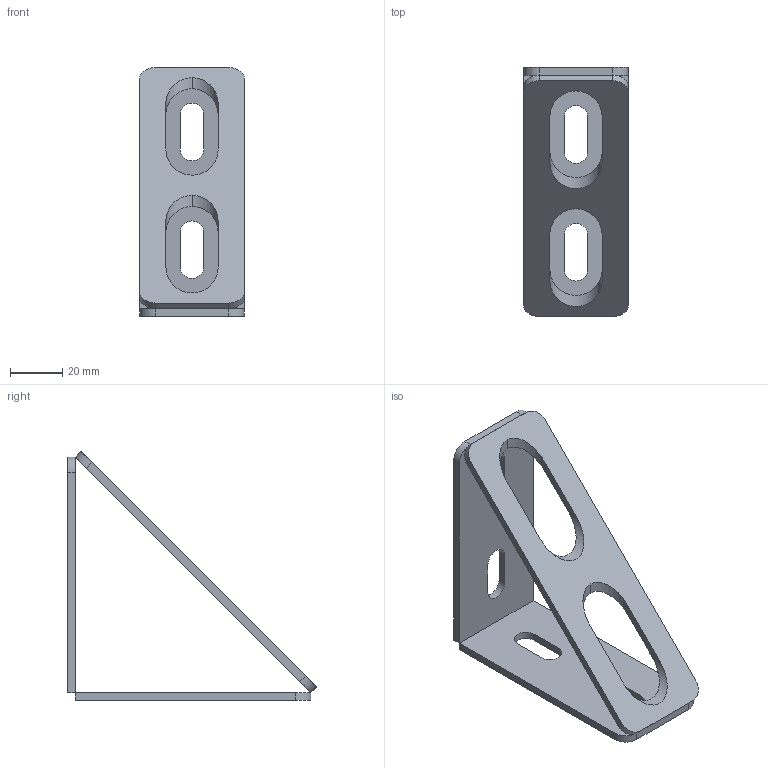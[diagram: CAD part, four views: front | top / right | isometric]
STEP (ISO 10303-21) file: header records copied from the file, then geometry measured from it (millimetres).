
FILE_DESCRIPTION (( 'STEP AP214' ), '1' );
FILE_NAME ('8302-2s.STEP', '2017-10-26T09:59:08', ( '' ), ( '' ), 'SwSTEP 2.0', 'SolidWorks 2014', '' );
FILE_SCHEMA (( 'AUTOMOTIVE_DESIGN' ));
Length unit declared in the file: millimetre
Products named in the file (6): 8302 - 1; 8302-2s; 8302 - 2
Assembly tree (3 placements, depth 2):
  8302 - 1
  8302 - 1
  8302-2s
    8302 - 1  x2
    8302 - 2
  8302 - 2
Bounding box: 40 x 95.12 x 95.12 mm (x, y, z)
Volume: 29288.8 mm3; surface area: 23468.7 mm2
Topology: 3 solids, 3 shells, 52 faces, 138 edges, 92 vertices
Faces by surface type: plane 30, cylinder 22
Entity records: 1291 total; most frequent: CARTESIAN_POINT 239, ORIENTED_EDGE 192, DIRECTION 190, EDGE_CURVE 96, VECTOR 64, VERTEX_POINT 64, LINE 64, AXIS2_PLACEMENT_3D 63
